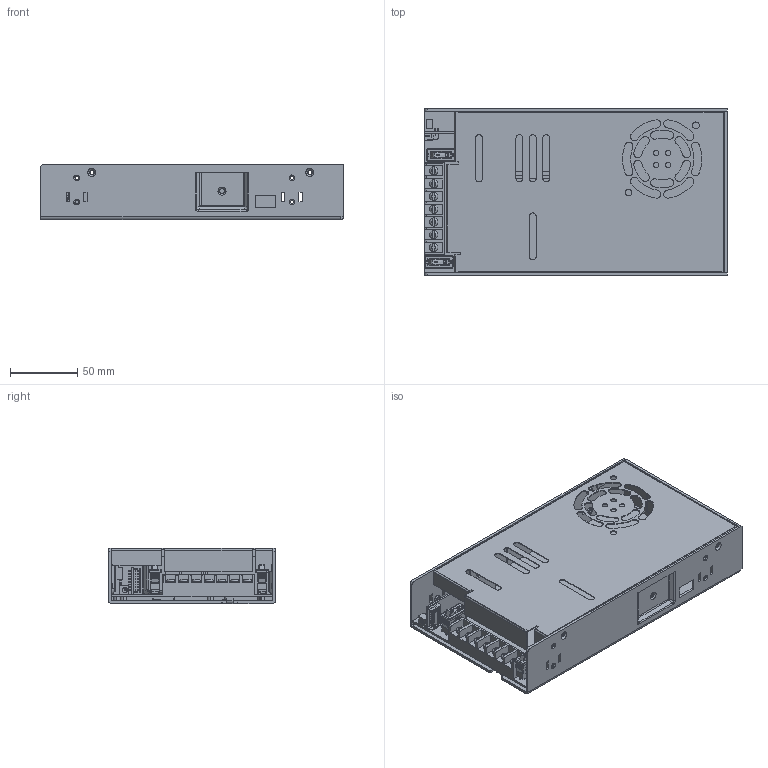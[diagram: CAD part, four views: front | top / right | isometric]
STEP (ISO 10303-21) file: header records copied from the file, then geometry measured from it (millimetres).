
FILE_DESCRIPTION(('Creo Elements/Direct Modeling STEP Export'),'2;1');
FILE_NAME('LAD-600U.stp','2024-04-11T 9:50:50',(''),(''),'PTC Creo Elements/Direct Modeling STEP processor for AP214 (Solid Model)','PTC Creo Elements/Direct Modeling 19.0E 27-Jun-2016 (C) Parametric Technology GmbH','');
FILE_SCHEMA(('AUTOMOTIVE_DESIGN { 1 0 10303 214 1 1 1 1 }'));
Length unit declared in the file: millimetre
Products named in the file (42): LRS-600-D_1.PRT; LRS-600-T_1.PRT; PCB1_1_1.PRT; LRS-600_ASM_ASM_1.ASM; MOS15.5x10.1.1.1.1.1.1.1.1.1.1.1.1.1.1.1.1; 3024-K5P10T3SB05BKBK.prt; 开关; 开关左; PCBB.1; 零件1; GF063X_1-6550.PRT; GF063X_1-6890.ASM; ___.stp; 1GG1HS-SZ154_1-11310.ASM; 1GG1HS-SZ154.stp; 散热片; MOS15.5x10.1.1.1.1.1.1.1.1.1.1.1.1.1.1.1.1.1; MOS15.5x10.1.1.1.1.1.1.1.1.1.1.1.1.1.1.1.1.1.1; 装配1; MHS012_STP.ASM; MHS012-3D.stp; MHS012-3D.stp.1; PIN2-2; 零件2; LRS-600-20220302.stp; LAD-600.stp; EXTRUDED-40317.PRT; 1FF1-DH2L-04.ASM.20; EXTRUDED-42639.PRT; 1FF1-DH2L-04_2931611402.ASM.18; EXTRUDED-44259.PRT; 1FF1-DH2L-04_2786087784.ASM.19; EXTRUDED-45954.PRT; 1FF1-DH2L-04_4032631581.ASM; EXTRUDED-46638.PRT; 1397697616.ASM; EXTRUDED-50208.PRT; 1397696816.ASM; CN2.ASM; 16PIN_LAD-360.stp
Assembly tree (55 placements, depth 5):
  LAD-600.stp
    LRS-600-20220302.stp
      零件2
      PIN2-2
      MHS012-3D.stp.1
        MHS012_STP.ASM
      MHS012-3D.stp
        MHS012_STP.ASM
      装配1
        MOS15.5x10.1.1.1.1.1.1.1.1.1.1.1.1.1.1.1.1.1.1
        MOS15.5x10.1.1.1.1.1.1.1.1.1.1.1.1.1.1.1.1.1
        散热片
      1GG1HS-SZ154.stp
        1GG1HS-SZ154_1-11310.ASM
      ___.stp
        GF063X_1-6890.ASM
          GF063X_1-6550.PRT
      零件1
      PCBB.1
      开关左
        3024-K5P10T3SB05BKBK.prt
      开关
        3024-K5P10T3SB05BKBK.prt
      MOS15.5x10.1.1.1.1.1.1.1.1.1.1.1.1.1.1.1.1
      LRS-600_ASM_ASM_1.ASM
        PCB1_1_1.PRT
        LRS-600-T_1.PRT
        LRS-600-D_1.PRT
  16PIN_LAD-360.stp
    CN2.ASM
      1397696816.ASM
        EXTRUDED-50208.PRT
      1397697616.ASM
        EXTRUDED-46638.PRT
      1FF1-DH2L-04_4032631581.ASM
        EXTRUDED-45954.PRT
      1FF1-DH2L-04.ASM.20  x2
        EXTRUDED-40317.PRT
      1FF1-DH2L-04_2786087784.ASM.19  x8
        EXTRUDED-44259.PRT
      1FF1-DH2L-04_2931611402.ASM.18  x8
        EXTRUDED-42639.PRT
Bounding box: 225.16 x 124 x 41 mm (x, y, z)
Volume: 178538 mm3; surface area: 230630.6 mm2
Topology: 33 solids, 33 shells, 5878 faces, 16456 edges, 10835 vertices
Faces by surface type: plane 5062, cylinder 657, torus 90, bspline 27, cone 20, sphere 16, extrusion 6
Entity records: 217520 total; most frequent: CARTESIAN_POINT 34003, ORIENTED_EDGE 31392, DIRECTION 27684, EDGE_CURVE 15696, VECTOR 13926, LINE 13920, VERTEX_POINT 10339, AXIS2_PLACEMENT_3D 6879
